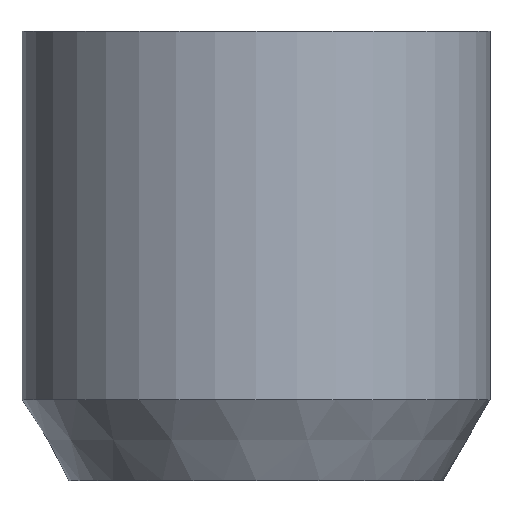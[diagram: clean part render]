
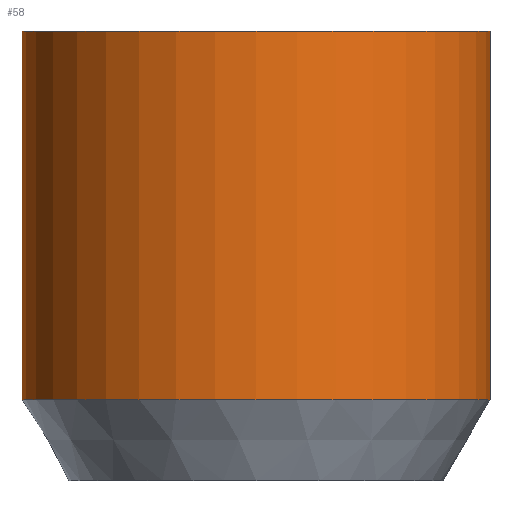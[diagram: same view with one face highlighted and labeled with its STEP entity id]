
A CAD part, front view. The second image highlights one B-rep face of the part: STEP entity #58.
In plain terms, the highlighted cylindrical face has radius 5 mm (diameter 10 mm), a full revolution.
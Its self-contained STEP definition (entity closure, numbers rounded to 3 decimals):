
#17=CYLINDRICAL_SURFACE('',#88,5.);
#19=FACE_OUTER_BOUND('',#23,.T.);
#23=EDGE_LOOP('',(#49,#50,#51,#52,#53));
#27=LINE('',#124,#29);
#29=VECTOR('',#107,5.);
#30=CIRCLE('',#85,5.);
#31=CIRCLE('',#86,5.);
#33=CIRCLE('',#89,5.);
#34=VERTEX_POINT('',#114);
#35=VERTEX_POINT('',#115);
#37=VERTEX_POINT('',#122);
#38=EDGE_CURVE('',#34,#35,#30,.T.);
#39=EDGE_CURVE('',#35,#34,#31,.T.);
#42=EDGE_CURVE('',#37,#37,#33,.T.);
#43=EDGE_CURVE('',#37,#35,#27,.T.);
#49=ORIENTED_EDGE('',*,*,#42,.F.);
#50=ORIENTED_EDGE('',*,*,#43,.T.);
#51=ORIENTED_EDGE('',*,*,#38,.F.);
#52=ORIENTED_EDGE('',*,*,#39,.F.);
#53=ORIENTED_EDGE('',*,*,#43,.F.);
#58=ADVANCED_FACE('',(#19),#17,.T.);
#85=AXIS2_PLACEMENT_3D('',#116,#96,#97);
#86=AXIS2_PLACEMENT_3D('',#117,#98,#99);
#88=AXIS2_PLACEMENT_3D('',#121,#103,#104);
#89=AXIS2_PLACEMENT_3D('',#123,#105,#106);
#96=DIRECTION('center_axis',(0.,0.,-1.));
#97=DIRECTION('ref_axis',(-1.,0.,0.));
#98=DIRECTION('center_axis',(0.,0.,-1.));
#99=DIRECTION('ref_axis',(-1.,0.,0.));
#103=DIRECTION('center_axis',(0.,0.,1.));
#104=DIRECTION('ref_axis',(1.,0.,0.));
#105=DIRECTION('center_axis',(0.,0.,1.));
#106=DIRECTION('ref_axis',(1.,0.,0.));
#107=DIRECTION('',(0.,0.,-1.));
#114=CARTESIAN_POINT('',(5.,0.,1.732));
#115=CARTESIAN_POINT('',(-5.,0.,1.732));
#116=CARTESIAN_POINT('Origin',(0.,0.,1.732));
#117=CARTESIAN_POINT('Origin',(0.,0.,1.732));
#121=CARTESIAN_POINT('Origin',(0.,0.,0.));
#122=CARTESIAN_POINT('',(-5.,0.,9.6));
#123=CARTESIAN_POINT('Origin',(0.,0.,9.6));
#124=CARTESIAN_POINT('',(-5.,0.,0.));
